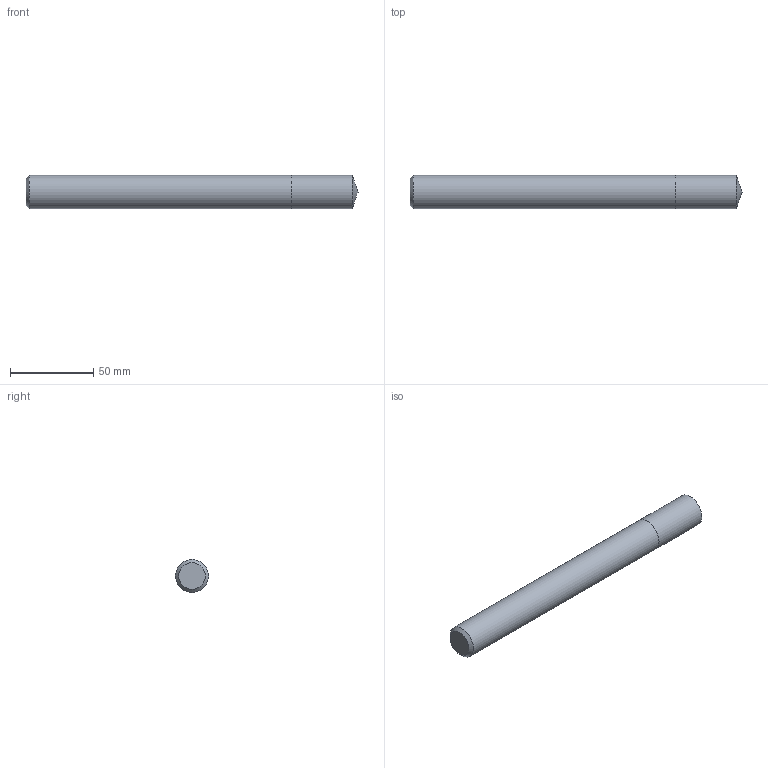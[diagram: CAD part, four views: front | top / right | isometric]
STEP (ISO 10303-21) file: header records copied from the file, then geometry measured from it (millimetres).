
FILE_DESCRIPTION (( 'STEP AP214' ), '1' );
FILE_NAME ('03-2241.STEP', '2022-02-07T07:07:44', ( 'USER' ), ( '' ), 'SwSTEP 2.0', 'SolidWorks 2018', '' );
FILE_SCHEMA (( 'AUTOMOTIVE_DESIGN' ));
Length unit declared in the file: millimetre
Products named in the file (1): 03-2241
Bounding box: 200 x 20 x 20 mm (x, y, z)
Volume: 61993.4 mm3; surface area: 13545.9 mm2
Topology: 2 solids, 2 shells, 7 faces, 11 edges, 7 vertices
Faces by surface type: plane 3, cylinder 2, cone 2
Full cylindrical faces by diameter (mm): 20 x2
Entity records: 189 total; most frequent: DIRECTION 26, CARTESIAN_POINT 18, AXIS2_PLACEMENT_3D 13, ORIENTED_EDGE 10, EDGE_LOOP 10, FACE_OUTER_BOUND 9, ADVANCED_FACE 7, UNCERTAINTY_MEASURE_WITH_UNIT 6
